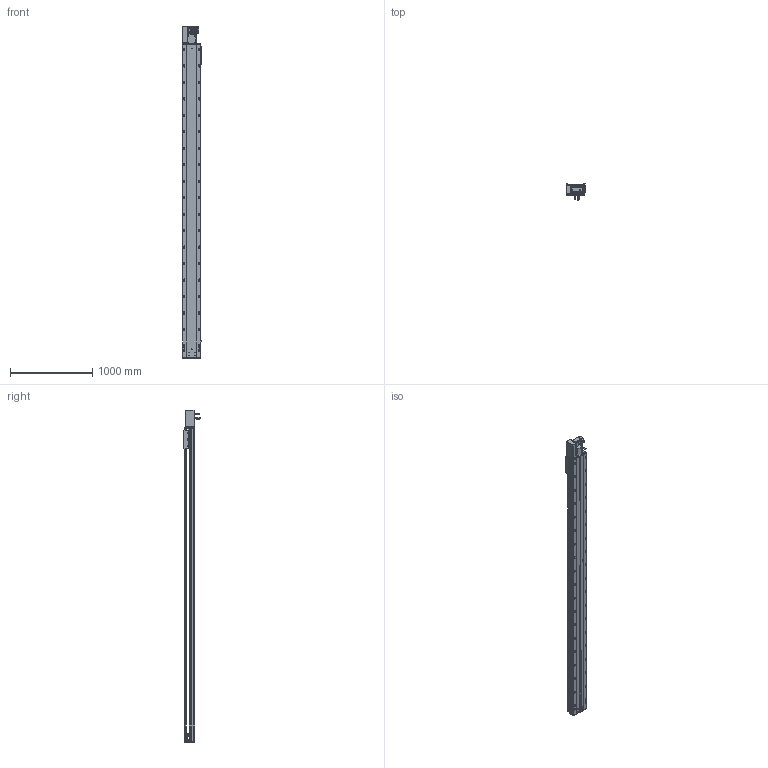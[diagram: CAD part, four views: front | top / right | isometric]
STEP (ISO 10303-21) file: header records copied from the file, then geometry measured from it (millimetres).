
FILE_DESCRIPTION (( 'STEP AP203' ), '1' );
FILE_NAME ('RY220-T-300-LK.SLDASM_3450.step', '2022-07-25T08:17:19', ( '' ), ( '' ), 'SwSTEP 2.0', 'SolidWorks 2016', '' );
FILE_SCHEMA (( 'CONFIG_CONTROL_DESIGN' ));
Length unit declared in the file: millimetre
Products named in the file (14): RY220-T-300-奻裔啣_3450; RY220圉猾敕々湍臏賑輸; RY220-俋离672覜茼んえ; 怢湛750W_ECMA-CX0807ES; RY220-T-湍謫欶(鍼踢); 覜茼ん672; RY220翋肮祭謫裔啣; RY220翋肮祭謫釱; RY220-T-300-LK.SLDASM_3450; 110A-T-肮祭謫釱傷裔; RY220-T菁釱-300_3450; RY220-T-蛌殏萇儂假蚾啣(750W); RY220-同步轮副支撑座6304×2; 滅袉蝶18-15
Assembly tree (18 placements, depth 2):
  RY220-T-300-LK.SLDASM_3450
    RY220-T菁釱-300_3450
    RY220翋肮祭謫釱
    覜茼ん672  x3
    RY220圉猾敕々湍臏賑輸
    RY220-T-300-奻裔啣_3450
    RY220-俋离672覜茼んえ
    滅袉蝶18-15  x3
    RY220翋肮祭謫裔啣  x2
    110A-T-肮祭謫釱傷裔
    怢湛750W_ECMA-CX0807ES
    RY220-T-湍謫欶(鍼踢)
    RY220-T-蛌殏萇儂假蚾啣(750W)
    RY220-同步轮副支撑座6304×2
Bounding box: 239.7 x 198.77 x 4029 mm (x, y, z)
Volume: 28111799.6 mm3; surface area: 8749335.8 mm2
Topology: 19 solids, 19 shells, 3134 faces, 8679 edges, 5416 vertices
Faces by surface type: cylinder 1570, plane 1069, cone 413, bspline 56, sphere 16, torus 10
Entity records: 104659 total; most frequent: CARTESIAN_POINT 29445, ORIENTED_EDGE 15514, DIRECTION 15072, EDGE_CURVE 7757, AXIS2_PLACEMENT_3D 5472, VERTEX_POINT 5040, VECTOR 4128, LINE 4128
